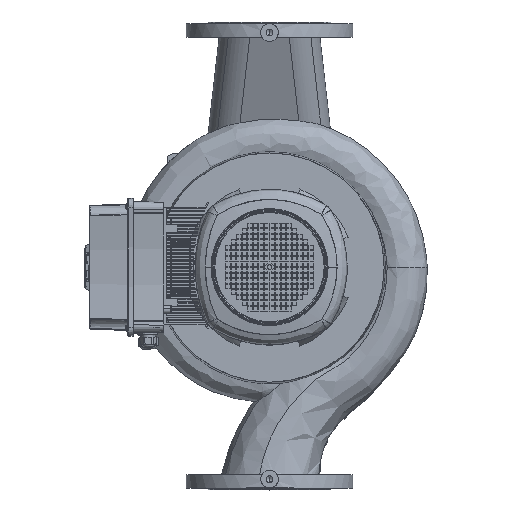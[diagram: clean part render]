
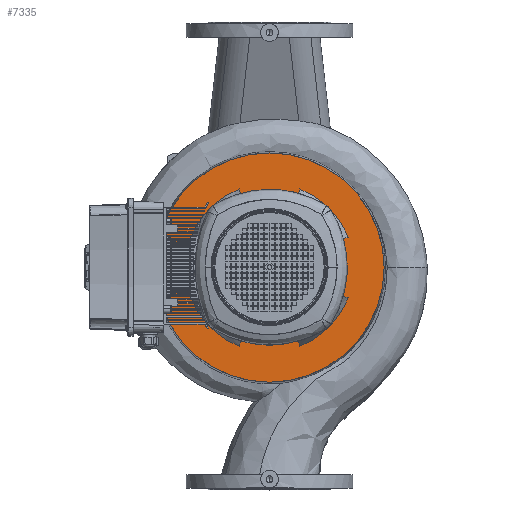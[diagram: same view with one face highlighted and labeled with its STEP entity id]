
A CAD part, top view. The second image highlights one B-rep face of the part: STEP entity #7335.
In plain terms, the highlighted planar face has unit normal (0, 0, 1) as drawn and (1, 0, 0) by its records, which use the part's own axes.
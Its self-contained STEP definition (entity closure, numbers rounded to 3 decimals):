
#7335=ADVANCED_FACE('',(#18232,#18233),#18234,.T.);
#7359=EDGE_CURVE('',#18273,#18274,#18275,.T.);
#7383=EDGE_CURVE('',#18317,#18318,#18319,.T.);
#7391=EDGE_CURVE('',#18327,#18330,#18331,.T.);
#7399=EDGE_CURVE('',#18339,#18342,#18343,.T.);
#7405=EDGE_CURVE('',#18346,#18318,#18351,.T.);
#7407=EDGE_CURVE('',#18353,#18330,#18354,.T.);
#7415=EDGE_CURVE('',#18365,#18361,#18366,.T.);
#7423=EDGE_CURVE('',#18376,#18372,#18377,.T.);
#7431=EDGE_CURVE('',#18383,#18386,#18387,.T.);
#7441=EDGE_CURVE('',#18397,#18327,#18400,.T.);
#7447=EDGE_CURVE('',#18405,#18339,#18408,.T.);
#7455=EDGE_CURVE('',#18416,#18411,#18419,.T.);
#7457=EDGE_CURVE('',#18342,#18361,#18421,.T.);
#7461=EDGE_CURVE('',#18411,#18372,#18425,.T.);
#7465=EDGE_CURVE('',#18386,#18317,#18429,.T.);
#7469=EDGE_CURVE('',#18353,#18405,#18433,.T.);
#7473=EDGE_CURVE('',#18365,#18416,#18437,.T.);
#7475=EDGE_CURVE('',#18346,#18397,#18439,.T.);
#7479=EDGE_CURVE('',#18274,#18273,#18443,.T.);
#7481=EDGE_CURVE('',#18376,#18383,#18445,.T.);
#18232=FACE_OUTER_BOUND('',#35456,.T.);
#18233=FACE_BOUND('',#35457,.T.);
#18234=PLANE('',#35458);
#18273=VERTEX_POINT('',#35499);
#18274=VERTEX_POINT('',#35500);
#18275=CIRCLE('',#35501,196.0);
#18317=VERTEX_POINT('',#35555);
#18318=VERTEX_POINT('',#35556);
#18319=CIRCLE('',#35557,132.799);
#18327=VERTEX_POINT('',#35577);
#18330=VERTEX_POINT('',#35590);
#18331=CIRCLE('',#35591,132.799);
#18339=VERTEX_POINT('',#35611);
#18342=VERTEX_POINT('',#35624);
#18343=CIRCLE('',#35625,132.799);
#18346=VERTEX_POINT('',#35629);
#18351=LINE('',#35646,#35647);
#18353=VERTEX_POINT('',#35650);
#18354=LINE('',#35651,#35652);
#18361=VERTEX_POINT('',#35672);
#18365=VERTEX_POINT('',#35686);
#18366=LINE('',#35687,#35688);
#18372=VERTEX_POINT('',#35707);
#18376=VERTEX_POINT('',#35721);
#18377=LINE('',#35722,#35723);
#18383=VERTEX_POINT('',#35742);
#18386=VERTEX_POINT('',#35755);
#18387=LINE('',#35756,#35757);
#18397=VERTEX_POINT('',#35782);
#18400=LINE('',#35795,#35796);
#18405=VERTEX_POINT('',#35804);
#18408=LINE('',#35817,#35818);
#18411=VERTEX_POINT('',#35822);
#18416=VERTEX_POINT('',#35839);
#18419=LINE('',#35852,#35853);
#18421=CIRCLE('',#35856,132.799);
#18425=CIRCLE('',#35862,132.799);
#18429=CIRCLE('',#35868,132.799);
#18433=CIRCLE('',#35874,144.0);
#18437=CIRCLE('',#35880,144.0);
#18439=CIRCLE('',#35883,144.0);
#18443=CIRCLE('',#35889,196.0);
#18445=CIRCLE('',#35892,144.0);
#35456=EDGE_LOOP('',(#60959,#60960));
#35457=EDGE_LOOP('',(#60961,#60962,#60963,#60964,#60965,#60966,#60967,#60968,#60969,#60970,#60971,#60972,#60973,#60974,#60975,#60976,#60977,#60978));
#35458=AXIS2_PLACEMENT_3D('',#60979,#60980,#60981);
#35499=CARTESIAN_POINT('',(20.0,196.0,0.0));
#35500=CARTESIAN_POINT('',(20.0,-196.0,0.));
#35501=AXIS2_PLACEMENT_3D('',#61081,#61082,#61083);
#35555=CARTESIAN_POINT('',(20.0,-132.799,0.));
#35556=CARTESIAN_POINT('',(20.0,-123.51,-48.794));
#35557=AXIS2_PLACEMENT_3D('',#61117,#61118,#61119);
#35577=CARTESIAN_POINT('',(20.0,-48.794,-123.51));
#35590=CARTESIAN_POINT('',(20.0,48.794,-123.51));
#35591=AXIS2_PLACEMENT_3D('',#61123,#61124,#61125);
#35611=CARTESIAN_POINT('',(20.0,123.51,-48.794));
#35624=CARTESIAN_POINT('',(20.0,132.799,0.));
#35625=AXIS2_PLACEMENT_3D('',#61129,#61130,#61131);
#35629=CARTESIAN_POINT('',(20.0,-134.395,-51.711));
#35646=CARTESIAN_POINT('',(20.0,-134.395,-51.711));
#35647=VECTOR('',#61133,1.0);
#35650=CARTESIAN_POINT('',(20.0,51.711,-134.395));
#35651=CARTESIAN_POINT('',(20.0,51.711,-134.395));
#35652=VECTOR('',#61134,1.0);
#35672=CARTESIAN_POINT('',(20.0,123.51,48.794));
#35686=CARTESIAN_POINT('',(20.0,134.395,51.711));
#35687=CARTESIAN_POINT('',(20.0,134.395,51.711));
#35688=VECTOR('',#61136,1.0);
#35707=CARTESIAN_POINT('',(20.0,-48.794,123.51));
#35721=CARTESIAN_POINT('',(20.0,-51.711,134.395));
#35722=CARTESIAN_POINT('',(20.0,-51.711,134.395));
#35723=VECTOR('',#61138,1.0);
#35742=CARTESIAN_POINT('',(20.0,-134.395,51.711));
#35755=CARTESIAN_POINT('',(20.0,-123.51,48.794));
#35756=CARTESIAN_POINT('',(20.0,-134.395,51.711));
#35757=VECTOR('',#61140,1.0);
#35782=CARTESIAN_POINT('',(20.0,-51.711,-134.395));
#35795=CARTESIAN_POINT('',(20.0,-51.711,-134.395));
#35796=VECTOR('',#61143,1.0);
#35804=CARTESIAN_POINT('',(20.0,134.395,-51.711));
#35817=CARTESIAN_POINT('',(20.0,134.395,-51.711));
#35818=VECTOR('',#61145,1.0);
#35822=CARTESIAN_POINT('',(20.0,48.794,123.51));
#35839=CARTESIAN_POINT('',(20.0,51.711,134.395));
#35852=CARTESIAN_POINT('',(20.0,51.711,134.395));
#35853=VECTOR('',#61147,1.0);
#35856=AXIS2_PLACEMENT_3D('',#61148,#61149,#61150);
#35862=AXIS2_PLACEMENT_3D('',#61154,#61155,#61156);
#35868=AXIS2_PLACEMENT_3D('',#61160,#61161,#61162);
#35874=AXIS2_PLACEMENT_3D('',#61166,#61167,#61168);
#35880=AXIS2_PLACEMENT_3D('',#61172,#61173,#61174);
#35883=AXIS2_PLACEMENT_3D('',#61175,#61176,#61177);
#35889=AXIS2_PLACEMENT_3D('',#61181,#61182,#61183);
#35892=AXIS2_PLACEMENT_3D('',#61184,#61185,#61186);
#60959=ORIENTED_EDGE('',*,*,#7359,.T.);
#60960=ORIENTED_EDGE('',*,*,#7479,.T.);
#60961=ORIENTED_EDGE('',*,*,#7481,.F.);
#60962=ORIENTED_EDGE('',*,*,#7423,.T.);
#60963=ORIENTED_EDGE('',*,*,#7461,.F.);
#60964=ORIENTED_EDGE('',*,*,#7455,.F.);
#60965=ORIENTED_EDGE('',*,*,#7473,.F.);
#60966=ORIENTED_EDGE('',*,*,#7415,.T.);
#60967=ORIENTED_EDGE('',*,*,#7457,.F.);
#60968=ORIENTED_EDGE('',*,*,#7399,.F.);
#60969=ORIENTED_EDGE('',*,*,#7447,.F.);
#60970=ORIENTED_EDGE('',*,*,#7469,.F.);
#60971=ORIENTED_EDGE('',*,*,#7407,.T.);
#60972=ORIENTED_EDGE('',*,*,#7391,.F.);
#60973=ORIENTED_EDGE('',*,*,#7441,.F.);
#60974=ORIENTED_EDGE('',*,*,#7475,.F.);
#60975=ORIENTED_EDGE('',*,*,#7405,.T.);
#60976=ORIENTED_EDGE('',*,*,#7383,.F.);
#60977=ORIENTED_EDGE('',*,*,#7465,.F.);
#60978=ORIENTED_EDGE('',*,*,#7431,.F.);
#60979=CARTESIAN_POINT('',(20.0,170.0,0.0));
#60980=DIRECTION('',(1.0,0.0,0.0));
#60981=DIRECTION('',(0.0,0.0,-1.0));
#61081=CARTESIAN_POINT('',(20.0,0.0,0.0));
#61082=DIRECTION('',(1.0,0.0,0.0));
#61083=DIRECTION('',(0.0,1.0,0.0));
#61117=CARTESIAN_POINT('',(20.0,0.0,0.0));
#61118=DIRECTION('',(1.0,0.0,0.0));
#61119=DIRECTION('',(0.0,1.0,0.0));
#61123=CARTESIAN_POINT('',(20.0,0.0,0.0));
#61124=DIRECTION('',(1.0,0.0,0.0));
#61125=DIRECTION('',(0.0,1.0,0.0));
#61129=CARTESIAN_POINT('',(20.0,0.0,0.0));
#61130=DIRECTION('',(1.0,0.0,0.0));
#61131=DIRECTION('',(0.0,1.0,0.0));
#61133=DIRECTION('',(0.,0.966,0.259));
#61134=DIRECTION('',(0.,-0.259,0.966));
#61136=DIRECTION('',(0.,-0.966,-0.259));
#61138=DIRECTION('',(0.,0.259,-0.966));
#61140=DIRECTION('',(0.,0.966,-0.259));
#61143=DIRECTION('',(0.,0.259,0.966));
#61145=DIRECTION('',(0.,-0.966,0.259));
#61147=DIRECTION('',(0.,-0.259,-0.966));
#61148=CARTESIAN_POINT('',(20.0,0.0,0.0));
#61149=DIRECTION('',(1.0,0.0,0.0));
#61150=DIRECTION('',(0.0,1.0,0.0));
#61154=CARTESIAN_POINT('',(20.0,0.0,0.0));
#61155=DIRECTION('',(1.0,0.0,0.0));
#61156=DIRECTION('',(0.0,1.0,0.0));
#61160=CARTESIAN_POINT('',(20.0,0.0,0.0));
#61161=DIRECTION('',(1.0,0.0,0.0));
#61162=DIRECTION('',(0.0,1.0,0.0));
#61166=CARTESIAN_POINT('',(20.0,0.0,0.0));
#61167=DIRECTION('',(1.0,0.0,0.0));
#61168=DIRECTION('',(0.0,1.0,0.0));
#61172=CARTESIAN_POINT('',(20.0,0.0,0.0));
#61173=DIRECTION('',(1.0,0.0,0.0));
#61174=DIRECTION('',(0.0,1.0,0.0));
#61175=CARTESIAN_POINT('',(20.0,0.0,0.0));
#61176=DIRECTION('',(1.0,0.0,0.0));
#61177=DIRECTION('',(0.0,1.0,0.0));
#61181=CARTESIAN_POINT('',(20.0,0.0,0.0));
#61182=DIRECTION('',(1.0,0.0,0.0));
#61183=DIRECTION('',(0.0,1.0,0.0));
#61184=CARTESIAN_POINT('',(20.0,0.0,0.0));
#61185=DIRECTION('',(1.0,0.0,0.0));
#61186=DIRECTION('',(0.0,1.0,0.0));
